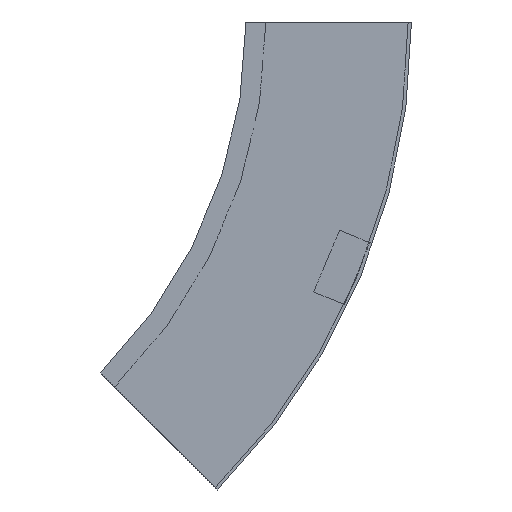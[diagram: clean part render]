
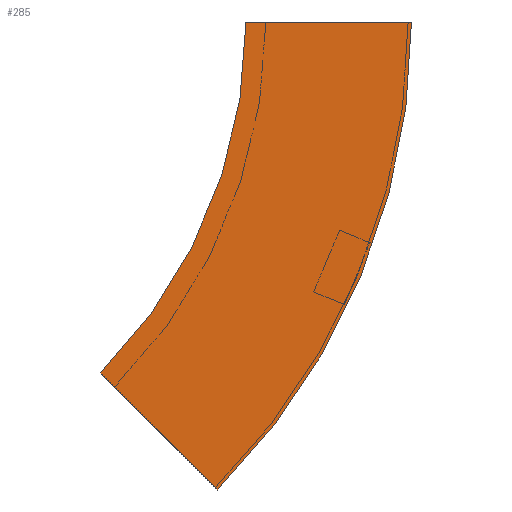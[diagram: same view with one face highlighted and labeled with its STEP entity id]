
A CAD part, left-side view. The second image highlights one B-rep face of the part: STEP entity #285.
In plain terms, the highlighted planar face has unit normal (-1, 0, 0) as drawn and (1, 0, 0) by its records, which use the part's own axes.
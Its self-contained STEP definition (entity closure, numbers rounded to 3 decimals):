
#15 = DIRECTION ( 'NONE',  ( 1., 0., 0. ) ) ;
#25 = ORIENTED_EDGE ( 'NONE', *, *, #304, .T. ) ;
#37 = CIRCLE ( 'NONE', #231, 300. ) ;
#55 = VECTOR ( 'NONE', #297, 1000. ) ;
#101 = CIRCLE ( 'NONE', #178, 400. ) ;
#119 = CARTESIAN_POINT ( 'NONE',  ( 0., 17.157, -282.843 ) ) ;
#135 = EDGE_CURVE ( 'NONE', #202, #551, #37, .T. ) ;
#156 = CARTESIAN_POINT ( 'NONE',  ( 0., 300., 0. ) ) ;
#157 = AXIS2_PLACEMENT_3D ( 'NONE', #383, #520, #553 ) ;
#178 = AXIS2_PLACEMENT_3D ( 'NONE', #156, #557, #516 ) ;
#197 = VECTOR ( 'NONE', #408, 1000. ) ;
#202 = VERTEX_POINT ( 'NONE', #548 ) ;
#231 = AXIS2_PLACEMENT_3D ( 'NONE', #358, #15, #540 ) ;
#234 = LINE ( 'NONE', #119, #55 ) ;
#243 = ORIENTED_EDGE ( 'NONE', *, *, #135, .F. ) ;
#285 = ADVANCED_FACE ( 'NONE', ( #337 ), #379, .F. ) ;
#297 = DIRECTION ( 'NONE',  ( 0., 0.707, 0.707 ) ) ;
#304 = EDGE_CURVE ( 'NONE', #521, #551, #234, .T. ) ;
#317 = CARTESIAN_POINT ( 'NONE',  ( 0., -100., 0. ) ) ;
#337 = FACE_OUTER_BOUND ( 'NONE', #352, .T. ) ;
#338 = ORIENTED_EDGE ( 'NONE', *, *, #493, .F. ) ;
#345 = CARTESIAN_POINT ( 'NONE',  ( 0., 17.157, -282.843 ) ) ;
#349 = VERTEX_POINT ( 'NONE', #526 ) ;
#352 = EDGE_LOOP ( 'NONE', ( #243, #338, #482, #25 ) ) ;
#358 = CARTESIAN_POINT ( 'NONE',  ( 0., 300., 0. ) ) ;
#379 = PLANE ( 'NONE',  #157 ) ;
#383 = CARTESIAN_POINT ( 'NONE',  ( 0., -100., 0. ) ) ;
#405 = EDGE_CURVE ( 'NONE', #349, #521, #101, .T. ) ;
#408 = DIRECTION ( 'NONE',  ( 0., 1., 0. ) ) ;
#429 = LINE ( 'NONE', #317, #197 ) ;
#453 = CARTESIAN_POINT ( 'NONE',  ( 0., 87.868, -212.132 ) ) ;
#482 = ORIENTED_EDGE ( 'NONE', *, *, #405, .T. ) ;
#493 = EDGE_CURVE ( 'NONE', #349, #202, #429, .T. ) ;
#516 = DIRECTION ( 'NONE',  ( 0., -1., 0. ) ) ;
#520 = DIRECTION ( 'NONE',  ( -1., 0., 0. ) ) ;
#521 = VERTEX_POINT ( 'NONE', #345 ) ;
#526 = CARTESIAN_POINT ( 'NONE',  ( 0., -100., 0. ) ) ;
#540 = DIRECTION ( 'NONE',  ( 0., -1., 0. ) ) ;
#548 = CARTESIAN_POINT ( 'NONE',  ( 0., 0., 0. ) ) ;
#551 = VERTEX_POINT ( 'NONE', #453 ) ;
#553 = DIRECTION ( 'NONE',  ( 0., 0., 1. ) ) ;
#557 = DIRECTION ( 'NONE',  ( 1., 0., 0. ) ) ;
